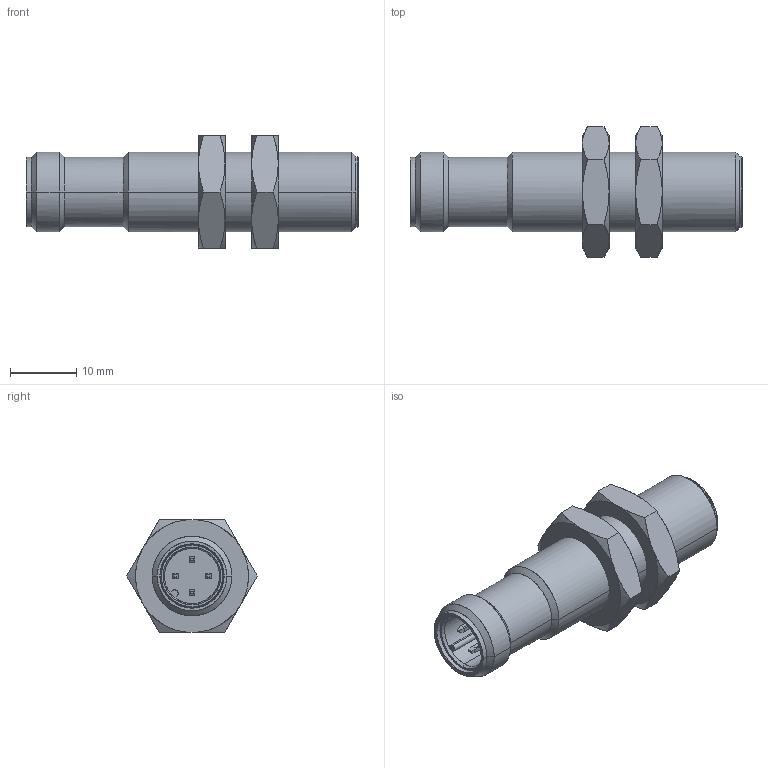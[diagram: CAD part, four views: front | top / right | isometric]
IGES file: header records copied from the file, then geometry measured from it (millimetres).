
Start section: Comment
Global section: file name: IWRM 12x970x_S14.igs; native system:  By Spatial Corp.; preprocessor: XPlus GENERIC/IGES 3.0; author: Author; organization: Title; date: 20060328.170118; units: inch
Bounding box: 49.95 x 19.63 x 17 mm (x, y, z)
Surface area: 3717.2 mm2 (no closed solid volume)
Topology: 0 solids, 0 shells, 153 faces, 748 edges, 748 vertices
Faces by surface type: bspline 153
